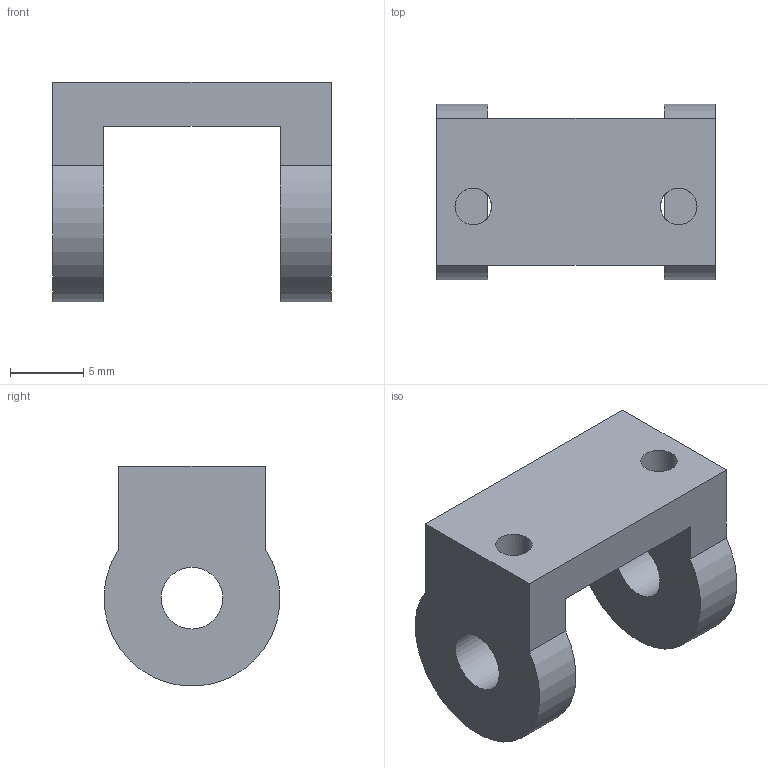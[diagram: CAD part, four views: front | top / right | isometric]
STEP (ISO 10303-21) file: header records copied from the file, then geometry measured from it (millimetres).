
FILE_DESCRIPTION(('Open CASCADE Model'),'2;1');
FILE_NAME('Open CASCADE Shape Model','2026-09-20T05:39:32',('Author'),( 'Open CASCADE'),'Open CASCADE STEP processor 7.9','Open CASCADE 7.9' ,'Unknown');
FILE_SCHEMA(('AUTOMOTIVE_DESIGN { 1 0 10303 214 1 1 1 1 }'));
Length unit declared in the file: millimetre
Products named in the file (1): Open CASCADE STEP translator 7.9 4
Bounding box: 19 x 11.97 x 14.98 mm (x, y, z)
Volume: 1286.3 mm3; surface area: 1274.7 mm2
Topology: 1 solids, 1 shells, 16 faces, 48 edges, 32 vertices
Faces by surface type: plane 10, cylinder 6
Full cylindrical faces by diameter (mm): 2.5 x2, 4.2 x2
Entity records: 1174 total; most frequent: CARTESIAN_POINT 217, DIRECTION 170, ORIENTED_EDGE 96, PCURVE 96, DEFINITIONAL_REPRESENTATION 96, LINE 88, VECTOR 88, EDGE_CURVE 48
